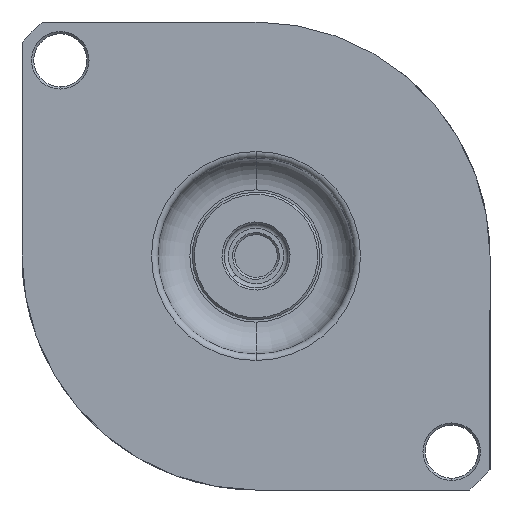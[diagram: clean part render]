
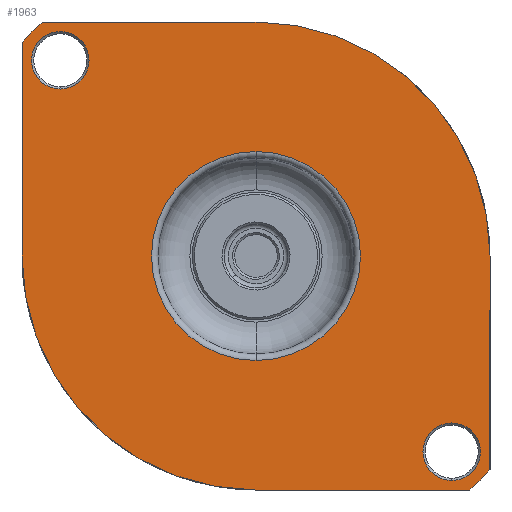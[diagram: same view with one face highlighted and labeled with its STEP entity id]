
A CAD part, front view. The second image highlights one B-rep face of the part: STEP entity #1963.
In plain terms, the highlighted planar face has unit normal (0, -1, 0).
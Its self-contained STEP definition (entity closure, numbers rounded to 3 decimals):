
#515 = DIRECTION ( 'NONE',  ( 0., 0., -1. ) ) ;
#948 = VERTEX_POINT ( 'NONE', #42548 ) ;
#1057 = CARTESIAN_POINT ( 'NONE',  ( 11., -0.8, -10.05 ) ) ;
#1159 = DIRECTION ( 'NONE',  ( 0., 1., 0. ) ) ;
#1174 = AXIS2_PLACEMENT_3D ( 'NONE', #24577, #1159, #28524 ) ;
#1903 = ORIENTED_EDGE ( 'NONE', *, *, #9931, .T. ) ;
#1963 = ADVANCED_FACE ( 'NONE', ( #9211, #5521, #48272, #45811 ), #24430, .T. ) ;
#2094 = CARTESIAN_POINT ( 'NONE',  ( 0., -0.8, -4.91 ) ) ;
#2149 = DIRECTION ( 'NONE',  ( 0., -1., 0. ) ) ;
#2525 = AXIS2_PLACEMENT_3D ( 'NONE', #33569, #10202, #37492 ) ;
#2659 = CARTESIAN_POINT ( 'NONE',  ( 0., -0.8, 11. ) ) ;
#2747 = EDGE_CURVE ( 'NONE', #30231, #38152, #20733, .T. ) ;
#3305 = VERTEX_POINT ( 'NONE', #27481 ) ;
#3426 = CARTESIAN_POINT ( 'NONE',  ( -11., -0.8, 0. ) ) ;
#3794 = EDGE_CURVE ( 'NONE', #948, #41203, #44397, .T. ) ;
#4864 = EDGE_CURVE ( 'NONE', #41075, #21036, #43668, .T. ) ;
#5521 = FACE_BOUND ( 'NONE', #24496, .T. ) ;
#5691 = CARTESIAN_POINT ( 'NONE',  ( 0., -0.8, -11. ) ) ;
#7136 = VERTEX_POINT ( 'NONE', #3426 ) ;
#7482 = AXIS2_PLACEMENT_3D ( 'NONE', #10034, #37342, #13958 ) ;
#7612 = CARTESIAN_POINT ( 'NONE',  ( 0., -0.8, 4.91 ) ) ;
#7666 = DIRECTION ( 'NONE',  ( 0., 0., -1. ) ) ;
#9207 = EDGE_CURVE ( 'NONE', #3305, #15831, #9438, .T. ) ;
#9211 = FACE_BOUND ( 'NONE', #47830, .T. ) ;
#9438 = CIRCLE ( 'NONE', #32830, 14.9 ) ;
#9837 = LINE ( 'NONE', #1057, #25690 ) ;
#9931 = EDGE_CURVE ( 'NONE', #21036, #41075, #16686, .T. ) ;
#10034 = CARTESIAN_POINT ( 'NONE',  ( 9.2, -0.8, -9.2 ) ) ;
#10202 = DIRECTION ( 'NONE',  ( 0., -1., 0. ) ) ;
#10400 = VERTEX_POINT ( 'NONE', #30149 ) ;
#11959 = VECTOR ( 'NONE', #20860, 1000. ) ;
#12215 = EDGE_CURVE ( 'NONE', #34147, #18106, #32975, .T. ) ;
#13544 = CIRCLE ( 'NONE', #32604, 4.91 ) ;
#13958 = DIRECTION ( 'NONE',  ( 0., 0., -1. ) ) ;
#15831 = VERTEX_POINT ( 'NONE', #47762 ) ;
#16154 = AXIS2_PLACEMENT_3D ( 'NONE', #20286, #47586, #24175 ) ;
#16519 = EDGE_CURVE ( 'NONE', #15831, #36299, #9837, .T. ) ;
#16686 = CIRCLE ( 'NONE', #32542, 1.35 ) ;
#16773 = DIRECTION ( 'NONE',  ( 0., -1., 0. ) ) ;
#17903 = CARTESIAN_POINT ( 'NONE',  ( 9.2, -0.8, -10.55 ) ) ;
#18106 = VERTEX_POINT ( 'NONE', #38114 ) ;
#18822 = VECTOR ( 'NONE', #21386, 1000. ) ;
#18835 = CARTESIAN_POINT ( 'NONE',  ( 9.2, -0.8, -9.2 ) ) ;
#19962 = DIRECTION ( 'NONE',  ( 0., -1., 0. ) ) ;
#20079 = LINE ( 'NONE', #5691, #18822 ) ;
#20195 = EDGE_CURVE ( 'NONE', #38152, #30231, #13544, .T. ) ;
#20286 = CARTESIAN_POINT ( 'NONE',  ( -9.2, -0.8, 9.2 ) ) ;
#20733 = CIRCLE ( 'NONE', #1174, 4.91 ) ;
#20860 = DIRECTION ( 'NONE',  ( -1., 0., 0. ) ) ;
#21036 = VERTEX_POINT ( 'NONE', #25392 ) ;
#21083 = EDGE_CURVE ( 'NONE', #36299, #21121, #23279, .T. ) ;
#21121 = VERTEX_POINT ( 'NONE', #2659 ) ;
#21386 = DIRECTION ( 'NONE',  ( 1., 0., 0. ) ) ;
#21394 = LINE ( 'NONE', #42639, #39720 ) ;
#22557 = DIRECTION ( 'NONE',  ( 0., -1., 0. ) ) ;
#22645 = DIRECTION ( 'NONE',  ( 0., 1., 0. ) ) ;
#22736 = DIRECTION ( 'NONE',  ( 0., 0., -1. ) ) ;
#23247 = AXIS2_PLACEMENT_3D ( 'NONE', #43299, #19962, #47269 ) ;
#23279 = CIRCLE ( 'NONE', #2525, 11. ) ;
#23499 = ORIENTED_EDGE ( 'NONE', *, *, #20195, .T. ) ;
#23866 = ORIENTED_EDGE ( 'NONE', *, *, #12215, .T. ) ;
#23936 = DIRECTION ( 'NONE',  ( 0., 1., 0. ) ) ;
#24175 = DIRECTION ( 'NONE',  ( 0., 0., -1. ) ) ;
#24238 = ORIENTED_EDGE ( 'NONE', *, *, #2747, .T. ) ;
#24317 = EDGE_CURVE ( 'NONE', #21121, #34147, #43077, .T. ) ;
#24430 = PLANE ( 'NONE',  #44342 ) ;
#24454 = AXIS2_PLACEMENT_3D ( 'NONE', #46054, #22645, #49954 ) ;
#24473 = DIRECTION ( 'NONE',  ( 0., 0., 1. ) ) ;
#24496 = EDGE_LOOP ( 'NONE', ( #30473, #1903 ) ) ;
#24577 = CARTESIAN_POINT ( 'NONE',  ( 0., -0.8, 0. ) ) ;
#24597 = EDGE_LOOP ( 'NONE', ( #23499, #24238 ) ) ;
#24918 = CARTESIAN_POINT ( 'NONE',  ( 0., -0.8, 11. ) ) ;
#25392 = CARTESIAN_POINT ( 'NONE',  ( 9.2, -0.8, -7.85 ) ) ;
#25572 = CARTESIAN_POINT ( 'NONE',  ( 0., -0.8, 0. ) ) ;
#25690 = VECTOR ( 'NONE', #24473, 1000. ) ;
#26487 = CIRCLE ( 'NONE', #16154, 1.35 ) ;
#27372 = CARTESIAN_POINT ( 'NONE',  ( 11., -0.8, 0. ) ) ;
#27481 = CARTESIAN_POINT ( 'NONE',  ( 10.05, -0.8, -11. ) ) ;
#27929 = ORIENTED_EDGE ( 'NONE', *, *, #9207, .T. ) ;
#28524 = DIRECTION ( 'NONE',  ( 0., 0., -1. ) ) ;
#29498 = DIRECTION ( 'NONE',  ( 0., 0., -1. ) ) ;
#30149 = CARTESIAN_POINT ( 'NONE',  ( 0., -0.8, -11. ) ) ;
#30231 = VERTEX_POINT ( 'NONE', #7612 ) ;
#30473 = ORIENTED_EDGE ( 'NONE', *, *, #4864, .T. ) ;
#30975 = ORIENTED_EDGE ( 'NONE', *, *, #47780, .T. ) ;
#31109 = ORIENTED_EDGE ( 'NONE', *, *, #16519, .T. ) ;
#32318 = ORIENTED_EDGE ( 'NONE', *, *, #33009, .T. ) ;
#32542 = AXIS2_PLACEMENT_3D ( 'NONE', #18835, #46162, #22736 ) ;
#32604 = AXIS2_PLACEMENT_3D ( 'NONE', #47353, #23936, #515 ) ;
#32830 = AXIS2_PLACEMENT_3D ( 'NONE', #25572, #2149, #29498 ) ;
#32975 = CIRCLE ( 'NONE', #35240, 14.9 ) ;
#33009 = EDGE_CURVE ( 'NONE', #7136, #10400, #43136, .T. ) ;
#33569 = CARTESIAN_POINT ( 'NONE',  ( 0., -0.8, 0. ) ) ;
#34147 = VERTEX_POINT ( 'NONE', #40874 ) ;
#34322 = EDGE_LOOP ( 'NONE', ( #32318, #42190, #27929, #31109, #44433, #39019, #23866, #50492 ) ) ;
#35240 = AXIS2_PLACEMENT_3D ( 'NONE', #45967, #22557, #49864 ) ;
#36299 = VERTEX_POINT ( 'NONE', #27372 ) ;
#37342 = DIRECTION ( 'NONE',  ( 0., 1., 0. ) ) ;
#37492 = DIRECTION ( 'NONE',  ( 0., 0., -1. ) ) ;
#38114 = CARTESIAN_POINT ( 'NONE',  ( -11., -0.8, 10.05 ) ) ;
#38152 = VERTEX_POINT ( 'NONE', #2094 ) ;
#39019 = ORIENTED_EDGE ( 'NONE', *, *, #24317, .T. ) ;
#39622 = ORIENTED_EDGE ( 'NONE', *, *, #3794, .T. ) ;
#39720 = VECTOR ( 'NONE', #7666, 1000. ) ;
#40143 = CARTESIAN_POINT ( 'NONE',  ( 0., -0.8, 0. ) ) ;
#40453 = EDGE_CURVE ( 'NONE', #10400, #3305, #20079, .T. ) ;
#40874 = CARTESIAN_POINT ( 'NONE',  ( -10.05, -0.8, 11. ) ) ;
#41075 = VERTEX_POINT ( 'NONE', #17903 ) ;
#41203 = VERTEX_POINT ( 'NONE', #49622 ) ;
#42190 = ORIENTED_EDGE ( 'NONE', *, *, #40453, .T. ) ;
#42548 = CARTESIAN_POINT ( 'NONE',  ( -9.2, -0.8, 7.85 ) ) ;
#42639 = CARTESIAN_POINT ( 'NONE',  ( -11., -0.8, 10.05 ) ) ;
#43077 = LINE ( 'NONE', #24918, #11959 ) ;
#43136 = CIRCLE ( 'NONE', #23247, 11. ) ;
#43299 = CARTESIAN_POINT ( 'NONE',  ( 0., -0.8, 0. ) ) ;
#43419 = EDGE_CURVE ( 'NONE', #18106, #7136, #21394, .T. ) ;
#43668 = CIRCLE ( 'NONE', #7482, 1.35 ) ;
#44050 = DIRECTION ( 'NONE',  ( 0., 0., -1. ) ) ;
#44342 = AXIS2_PLACEMENT_3D ( 'NONE', #40143, #16773, #44050 ) ;
#44397 = CIRCLE ( 'NONE', #24454, 1.35 ) ;
#44433 = ORIENTED_EDGE ( 'NONE', *, *, #21083, .T. ) ;
#45811 = FACE_OUTER_BOUND ( 'NONE', #34322, .T. ) ;
#45967 = CARTESIAN_POINT ( 'NONE',  ( 0., -0.8, 0. ) ) ;
#46054 = CARTESIAN_POINT ( 'NONE',  ( -9.2, -0.8, 9.2 ) ) ;
#46162 = DIRECTION ( 'NONE',  ( 0., 1., 0. ) ) ;
#47269 = DIRECTION ( 'NONE',  ( 0., 0., -1. ) ) ;
#47353 = CARTESIAN_POINT ( 'NONE',  ( 0., -0.8, 0. ) ) ;
#47586 = DIRECTION ( 'NONE',  ( 0., 1., 0. ) ) ;
#47762 = CARTESIAN_POINT ( 'NONE',  ( 11., -0.8, -10.05 ) ) ;
#47780 = EDGE_CURVE ( 'NONE', #41203, #948, #26487, .T. ) ;
#47830 = EDGE_LOOP ( 'NONE', ( #39622, #30975 ) ) ;
#48272 = FACE_BOUND ( 'NONE', #24597, .T. ) ;
#49622 = CARTESIAN_POINT ( 'NONE',  ( -9.2, -0.8, 10.55 ) ) ;
#49864 = DIRECTION ( 'NONE',  ( 0., 0., -1. ) ) ;
#49954 = DIRECTION ( 'NONE',  ( 0., 0., -1. ) ) ;
#50492 = ORIENTED_EDGE ( 'NONE', *, *, #43419, .T. ) ;
